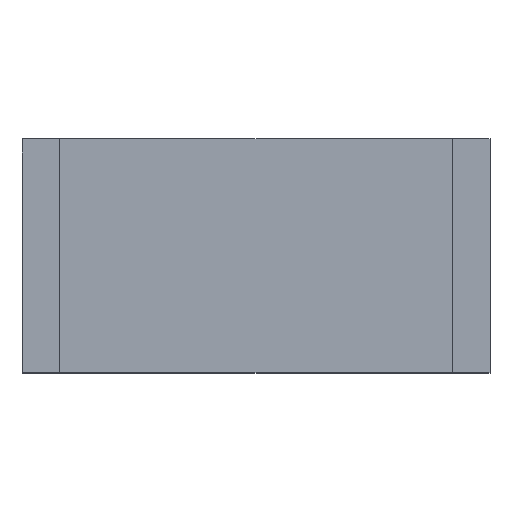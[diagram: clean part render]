
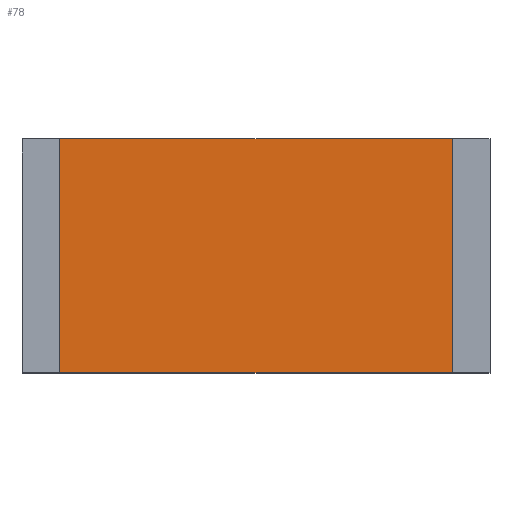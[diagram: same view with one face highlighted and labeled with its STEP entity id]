
A CAD part, top view. The second image highlights one B-rep face of the part: STEP entity #78.
In plain terms, the highlighted planar face has unit normal (0, 0, 1).
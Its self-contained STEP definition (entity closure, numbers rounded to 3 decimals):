
#78=ADVANCED_FACE('',(#312),#314,.T.);
#312=FACE_BOUND('',#313,.T.);
#313=EDGE_LOOP('',(#494,#495,#496,#497));
#314=PLANE('',#315);
#315=AXIS2_PLACEMENT_3D('',#316,#317,#318);
#316=CARTESIAN_POINT('',(-2.45,-1.25,0.65));
#317=DIRECTION('',(0.,0.,1.));
#318=DIRECTION('',(1.,0.,0.));
#494=ORIENTED_EDGE('',*,*,#614,.T.);
#495=ORIENTED_EDGE('',*,*,#615,.T.);
#496=ORIENTED_EDGE('',*,*,#616,.F.);
#497=ORIENTED_EDGE('',*,*,#617,.F.);
#614=EDGE_CURVE('',#674,#675,#676,.T.);
#615=EDGE_CURVE('',#675,#677,#678,.T.);
#616=EDGE_CURVE('',#679,#677,#680,.T.);
#617=EDGE_CURVE('',#674,#679,#681,.T.);
#674=VERTEX_POINT('',#774);
#675=VERTEX_POINT('',#775);
#676=LINE('',#776,#777);
#677=VERTEX_POINT('',#779);
#678=LINE('',#780,#781);
#679=VERTEX_POINT('',#783);
#680=LINE('',#784,#785);
#681=LINE('',#787,#788);
#774=CARTESIAN_POINT('',(-2.45,-1.25,0.65));
#775=CARTESIAN_POINT('',(2.45,-1.25,0.65));
#776=CARTESIAN_POINT('',(-2.45,-1.25,0.65));
#777=VECTOR('',#778,1.);
#778=DIRECTION('',(1.,0.,0.));
#779=CARTESIAN_POINT('',(2.45,1.25,0.65));
#780=CARTESIAN_POINT('',(2.45,-1.25,0.65));
#781=VECTOR('',#782,1.);
#782=DIRECTION('',(0.,1.,0.));
#783=CARTESIAN_POINT('',(-2.45,1.25,0.65));
#784=CARTESIAN_POINT('',(-2.45,1.25,0.65));
#785=VECTOR('',#786,1.);
#786=DIRECTION('',(1.,0.,0.));
#787=CARTESIAN_POINT('',(-2.45,-1.25,0.65));
#788=VECTOR('',#789,1.);
#789=DIRECTION('',(0.,1.,0.));
